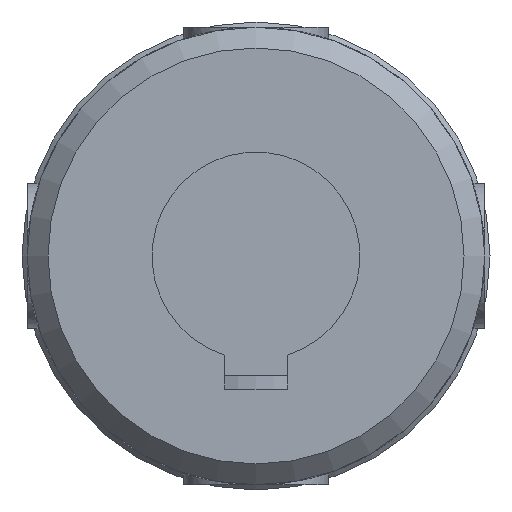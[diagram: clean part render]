
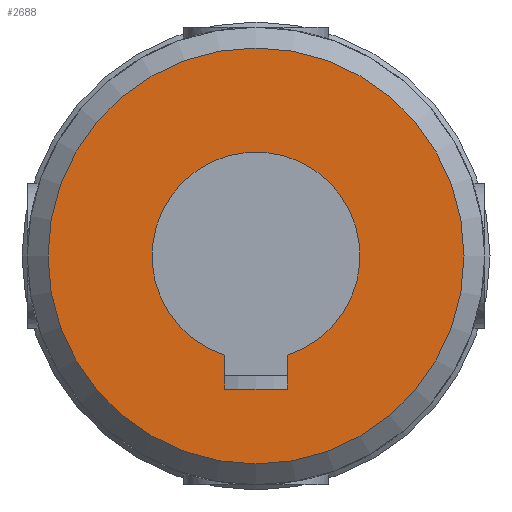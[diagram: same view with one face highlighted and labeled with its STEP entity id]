
A CAD part, front view. The second image highlights one B-rep face of the part: STEP entity #2688.
In plain terms, the highlighted planar face has unit normal (0, -1, 0).
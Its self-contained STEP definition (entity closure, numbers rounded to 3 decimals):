
#201=FACE_BOUND('',#632,.T.);
#273=PLANE('',#2978);
#424=FACE_OUTER_BOUND('',#631,.T.);
#631=EDGE_LOOP('',(#2383));
#632=EDGE_LOOP('',(#2384,#2385,#2386,#2387));
#796=LINE('',#4947,#949);
#800=LINE('',#4974,#953);
#802=LINE('',#4982,#955);
#949=VECTOR('',#3653,1.63);
#953=VECTOR('',#3665,3.);
#955=VECTOR('',#3669,1.63);
#1079=CIRCLE('',#2965,5.);
#1085=CIRCLE('',#2976,10.);
#1314=VERTEX_POINT('',#4944);
#1315=VERTEX_POINT('',#4946);
#1318=VERTEX_POINT('',#4956);
#1320=VERTEX_POINT('',#4972);
#1329=VERTEX_POINT('',#5071);
#1664=EDGE_CURVE('',#1315,#1314,#796,.T.);
#1668=EDGE_CURVE('',#1318,#1315,#1079,.T.);
#1672=EDGE_CURVE('',#1314,#1320,#800,.T.);
#1675=EDGE_CURVE('',#1320,#1318,#802,.T.);
#1685=EDGE_CURVE('',#1329,#1329,#1085,.T.);
#2383=ORIENTED_EDGE('',*,*,#1685,.F.);
#2384=ORIENTED_EDGE('',*,*,#1664,.T.);
#2385=ORIENTED_EDGE('',*,*,#1672,.T.);
#2386=ORIENTED_EDGE('',*,*,#1675,.T.);
#2387=ORIENTED_EDGE('',*,*,#1668,.T.);
#2688=ADVANCED_FACE('',(#424,#201),#273,.F.);
#2965=AXIS2_PLACEMENT_3D('',#4957,#3659,#3660);
#2976=AXIS2_PLACEMENT_3D('',#5072,#3686,#3687);
#2978=AXIS2_PLACEMENT_3D('',#5248,#3694,#3695);
#3653=DIRECTION('',(0.,0.,-1.));
#3659=DIRECTION('center_axis',(0.,1.,0.));
#3660=DIRECTION('ref_axis',(0.3,0.,-0.954));
#3665=DIRECTION('',(-1.,0.,0.));
#3669=DIRECTION('',(0.,0.,1.));
#3686=DIRECTION('center_axis',(0.,1.,0.));
#3687=DIRECTION('ref_axis',(1.,0.,0.));
#3694=DIRECTION('center_axis',(0.,1.,0.));
#3695=DIRECTION('ref_axis',(0.,0.,1.));
#4944=CARTESIAN_POINT('',(1.5,-29.5,-6.4));
#4946=CARTESIAN_POINT('',(1.5,-29.5,-4.77));
#4947=CARTESIAN_POINT('',(1.5,-29.5,-2.385));
#4956=CARTESIAN_POINT('',(-1.5,-29.5,-4.77));
#4957=CARTESIAN_POINT('Origin',(0.,-29.5,0.));
#4972=CARTESIAN_POINT('',(-1.5,-29.5,-6.4));
#4974=CARTESIAN_POINT('',(0.75,-29.5,-6.4));
#4982=CARTESIAN_POINT('',(-1.5,-29.5,-3.2));
#5071=CARTESIAN_POINT('',(-10.,-29.5,0.));
#5072=CARTESIAN_POINT('Origin',(0.,-29.5,0.));
#5248=CARTESIAN_POINT('Origin',(0.,-29.5,0.));
